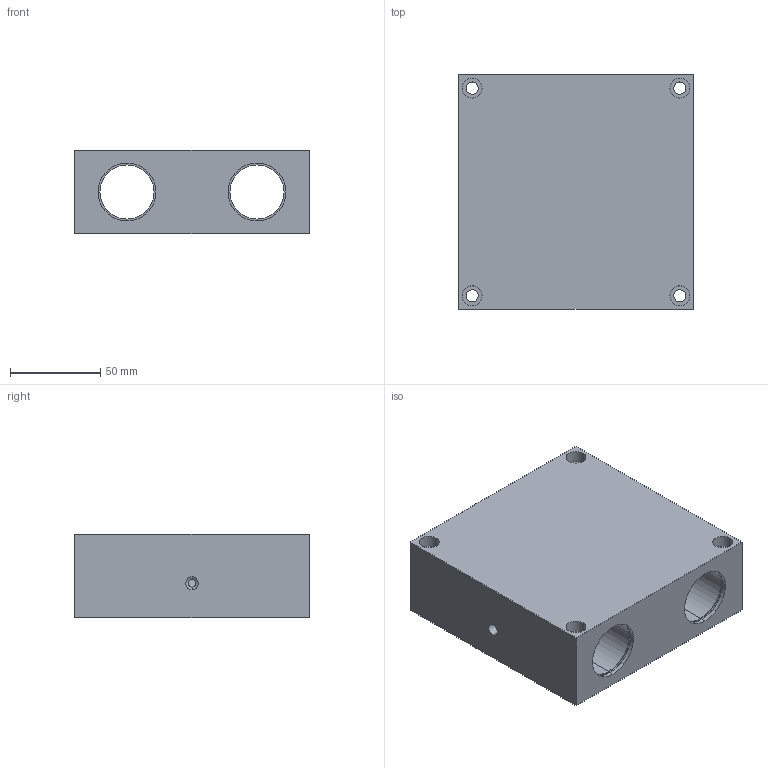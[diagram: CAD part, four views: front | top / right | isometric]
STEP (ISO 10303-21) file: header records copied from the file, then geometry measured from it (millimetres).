
FILE_DESCRIPTION (( 'STEP AP214' ), '1' );
FILE_NAME ('KQSG-20.step', '2020-03-04T13:34:19', ( '' ), ( '' ), 'SwSTEP 2.0', 'SolidWorks 2019', '' );
FILE_SCHEMA (( 'AUTOMOTIVE_DESIGN' ));
Length unit declared in the file: millimetre
Products named in the file (1): KQSG-20
Bounding box: 130 x 130 x 46 mm (x, y, z)
Volume: 565176.7 mm3; surface area: 85741.2 mm2
Topology: 1 solids, 1 shells, 84 faces, 186 edges, 119 vertices
Faces by surface type: cylinder 54, plane 22, cone 8
Entity records: 2652 total; most frequent: CARTESIAN_POINT 504, DIRECTION 456, ORIENTED_EDGE 368, AXIS2_PLACEMENT_3D 191, EDGE_CURVE 184, VERTEX_POINT 119, EDGE_LOOP 117, CIRCLE 106
